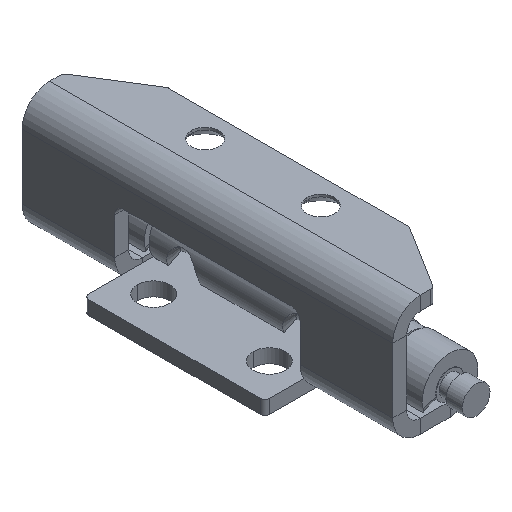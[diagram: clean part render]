
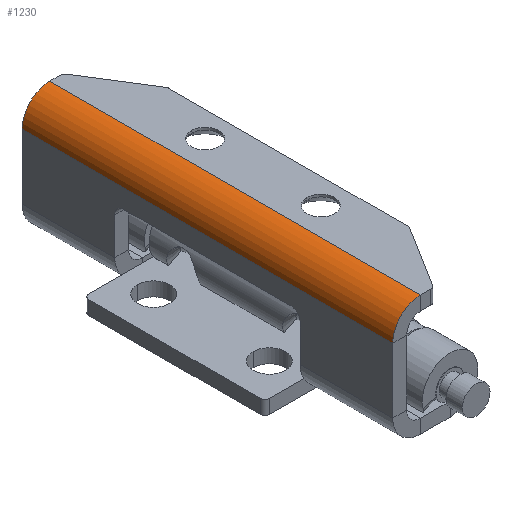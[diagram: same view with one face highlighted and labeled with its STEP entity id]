
A CAD part, isometric view. The second image highlights one B-rep face of the part: STEP entity #1230.
In plain terms, the highlighted cylindrical face has radius 6 mm (diameter 12 mm), a partial arc.
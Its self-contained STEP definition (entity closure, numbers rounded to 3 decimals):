
#29=DIRECTION('',(0.,1.,0.));
#30=VECTOR('',#29,80.);
#31=CARTESIAN_POINT('',(6.,0.,0.));
#32=LINE('',#31,#30);
#69=CARTESIAN_POINT('',(6.,80.,-6.));
#70=DIRECTION('',(0.,1.,0.));
#71=DIRECTION('',(-1.,0.,0.));
#72=AXIS2_PLACEMENT_3D('',#69,#70,#71);
#83=DIRECTION('',(0.,1.,0.));
#84=VECTOR('',#83,80.);
#85=CARTESIAN_POINT('',(0.,0.,-6.));
#86=LINE('',#85,#84);
#87=CARTESIAN_POINT('',(6.,0.,-6.));
#88=DIRECTION('',(0.,1.,0.));
#89=DIRECTION('',(-1.,0.,0.));
#90=AXIS2_PLACEMENT_3D('',#87,#88,#89);
#924=CARTESIAN_POINT('',(0.,0.,-6.));
#926=VERTEX_POINT('',#924);
#932=CARTESIAN_POINT('',(0.,80.,-6.));
#934=VERTEX_POINT('',#932);
#979=CARTESIAN_POINT('',(6.,80.,0.));
#981=VERTEX_POINT('',#979);
#983=CARTESIAN_POINT('',(6.,0.,0.));
#984=VERTEX_POINT('',#983);
#1217=CARTESIAN_POINT('',(6.,0.,-6.));
#1218=DIRECTION('',(0.,1.,0.));
#1219=DIRECTION('',(1.,0.,0.));
#1220=AXIS2_PLACEMENT_3D('',#1217,#1218,#1219);
#1221=CYLINDRICAL_SURFACE('',#1220,6.);
#1223=ORIENTED_EDGE('',*,*,#1222,.F.);
#1225=ORIENTED_EDGE('',*,*,#1224,.T.);
#1226=ORIENTED_EDGE('',*,*,#1207,.T.);
#1227=ORIENTED_EDGE('',*,*,#1154,.F.);
#1228=EDGE_LOOP('',(#1223,#1225,#1226,#1227));
#1229=FACE_OUTER_BOUND('',#1228,.F.);
#1230=ADVANCED_FACE('',(#1229),#1221,.T.);
#73=CIRCLE('',#72,6.);
#91=CIRCLE('',#90,6.);
#1154=EDGE_CURVE('',#984,#981,#32,.T.);
#1207=EDGE_CURVE('',#934,#981,#73,.T.);
#1222=EDGE_CURVE('',#926,#984,#91,.T.);
#1224=EDGE_CURVE('',#926,#934,#86,.T.);
